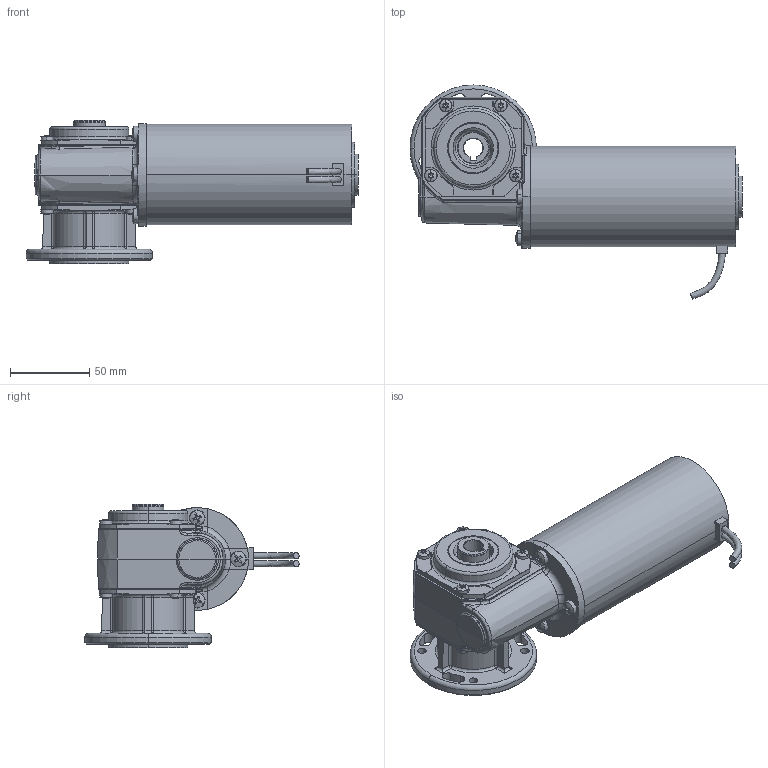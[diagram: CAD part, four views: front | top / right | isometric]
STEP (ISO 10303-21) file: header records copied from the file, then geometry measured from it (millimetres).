
FILE_DESCRIPTION(('STEP AP214'),'1');
FILE_NAME('Z:/TurboCAD/Motor-Getriebe-Kombinationen/PGK/tmp0.STEP','2015-04-01T14:12:15',(' '),(' '),'Spatial InterOp 3D',' ',' ');
FILE_SCHEMA(('automotive_design'));
Length unit declared in the file: millimetre
Products named in the file (899): 3; 5; 4; 1; 2; NONE
Bounding box: 210 x 135.5 x 90.5 mm (x, y, z)
Volume: 423857.8 mm3; surface area: 95246.4 mm2
Topology: 1 solids, 919 shells, 971 faces, 4510 edges, 4457 vertices
Faces by surface type: plane 366, cylinder 297, cone 137, torus 81, bspline 52, sphere 38
Entity records: 83542 total; most frequent: CARTESIAN_POINT 18041, DIRECTION 9409, ORIENTED_EDGE 4613, EDGE_CURVE 4498, VERTEX_POINT 4457, AXIS2_PLACEMENT_3D 3689, LINE 2031, VECTOR 2031
